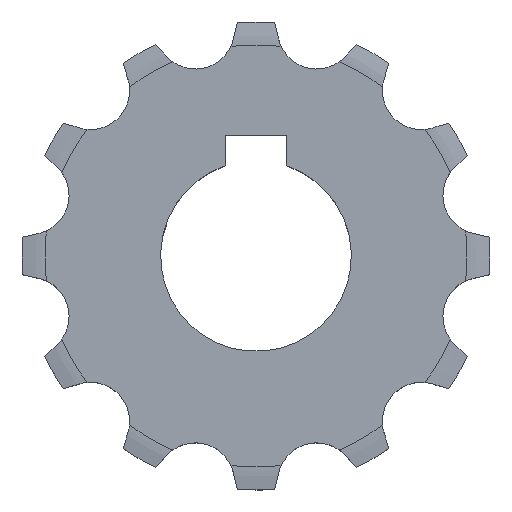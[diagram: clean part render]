
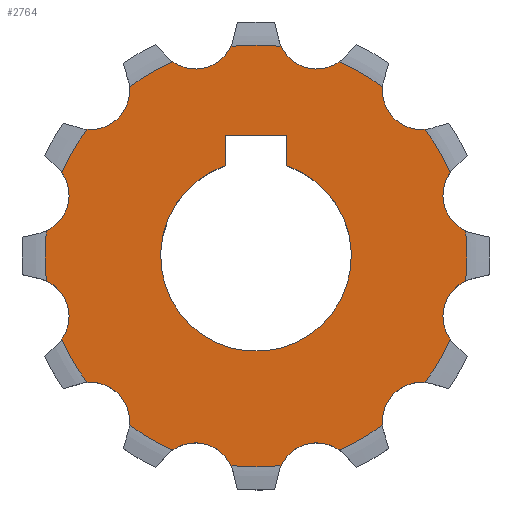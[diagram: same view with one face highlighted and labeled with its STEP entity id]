
A CAD part, top view. The second image highlights one B-rep face of the part: STEP entity #2764.
In plain terms, the highlighted planar face has unit normal (0, 0, 1).
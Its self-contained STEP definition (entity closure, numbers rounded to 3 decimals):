
#33=CARTESIAN_POINT('',(7.938,29.623,4.55));
#34=DIRECTION('',(0.,0.,1.));
#35=DIRECTION('',(-0.908,-0.42,0.));
#36=AXIS2_PLACEMENT_3D('',#33,#34,#35);
#42=CARTESIAN_POINT('',(0.,0.,4.55));
#43=DIRECTION('',(0.,0.,-1.));
#44=DIRECTION('',(0.394,0.919,0.));
#45=AXIS2_PLACEMENT_3D('',#42,#43,#44);
#50=CARTESIAN_POINT('',(21.686,21.686,4.55));
#51=DIRECTION('',(0.,0.,1.));
#52=DIRECTION('',(-0.996,0.09,0.));
#53=AXIS2_PLACEMENT_3D('',#50,#51,#52);
#58=CARTESIAN_POINT('',(0.,0.,4.55));
#59=DIRECTION('',(0.,0.,-1.));
#60=DIRECTION('',(0.801,0.599,0.));
#61=AXIS2_PLACEMENT_3D('',#58,#59,#60);
#66=CARTESIAN_POINT('',(29.623,7.938,4.55));
#67=DIRECTION('',(0.,0.,1.));
#68=DIRECTION('',(-0.817,0.576,0.));
#69=AXIS2_PLACEMENT_3D('',#66,#67,#68);
#74=CARTESIAN_POINT('',(0.,0.,4.55));
#75=DIRECTION('',(0.,0.,-1.));
#76=DIRECTION('',(0.993,0.119,0.));
#77=AXIS2_PLACEMENT_3D('',#74,#75,#76);
#82=CARTESIAN_POINT('',(29.623,-7.938,4.55));
#83=DIRECTION('',(0.,0.,1.));
#84=DIRECTION('',(-0.42,0.908,0.));
#85=AXIS2_PLACEMENT_3D('',#82,#83,#84);
#90=CARTESIAN_POINT('',(0.,0.,4.55));
#91=DIRECTION('',(0.,0.,-1.));
#92=DIRECTION('',(0.919,-0.394,0.));
#93=AXIS2_PLACEMENT_3D('',#90,#91,#92);
#98=CARTESIAN_POINT('',(21.686,-21.686,4.55));
#99=DIRECTION('',(0.,0.,1.));
#100=DIRECTION('',(0.09,0.996,0.));
#101=AXIS2_PLACEMENT_3D('',#98,#99,#100);
#106=CARTESIAN_POINT('',(0.,0.,4.55));
#107=DIRECTION('',(0.,0.,-1.));
#108=DIRECTION('',(0.599,-0.801,0.));
#109=AXIS2_PLACEMENT_3D('',#106,#107,#108);
#114=CARTESIAN_POINT('',(7.938,-29.623,4.55));
#115=DIRECTION('',(0.,0.,1.));
#116=DIRECTION('',(0.576,0.817,0.));
#117=AXIS2_PLACEMENT_3D('',#114,#115,#116);
#122=CARTESIAN_POINT('',(-7.938,-29.623,4.55));
#123=DIRECTION('',(0.,0.,1.));
#124=DIRECTION('',(0.908,0.42,0.));
#125=AXIS2_PLACEMENT_3D('',#122,#123,#124);
#130=CARTESIAN_POINT('',(0.,0.,4.55));
#131=DIRECTION('',(0.,0.,-1.));
#132=DIRECTION('',(-0.394,-0.919,0.));
#133=AXIS2_PLACEMENT_3D('',#130,#131,#132);
#138=CARTESIAN_POINT('',(-21.686,-21.686,4.55));
#139=DIRECTION('',(0.,0.,1.));
#140=DIRECTION('',(0.996,-0.09,0.));
#141=AXIS2_PLACEMENT_3D('',#138,#139,#140);
#146=CARTESIAN_POINT('',(0.,0.,4.55));
#147=DIRECTION('',(0.,0.,-1.));
#148=DIRECTION('',(-0.801,-0.599,0.));
#149=AXIS2_PLACEMENT_3D('',#146,#147,#148);
#154=CARTESIAN_POINT('',(-29.623,-7.938,4.55));
#155=DIRECTION('',(0.,0.,1.));
#156=DIRECTION('',(0.817,-0.576,0.));
#157=AXIS2_PLACEMENT_3D('',#154,#155,#156);
#162=CARTESIAN_POINT('',(0.,0.,4.55));
#163=DIRECTION('',(0.,0.,-1.));
#164=DIRECTION('',(-0.993,-0.119,0.));
#165=AXIS2_PLACEMENT_3D('',#162,#163,#164);
#170=CARTESIAN_POINT('',(-29.623,7.938,4.55));
#171=DIRECTION('',(0.,0.,1.));
#172=DIRECTION('',(0.42,-0.908,0.));
#173=AXIS2_PLACEMENT_3D('',#170,#171,#172);
#178=CARTESIAN_POINT('',(0.,0.,4.55));
#179=DIRECTION('',(0.,0.,-1.));
#180=DIRECTION('',(-0.919,0.394,0.));
#181=AXIS2_PLACEMENT_3D('',#178,#179,#180);
#186=CARTESIAN_POINT('',(-21.686,21.686,4.55));
#187=DIRECTION('',(0.,0.,1.));
#188=DIRECTION('',(-0.09,-0.996,0.));
#189=AXIS2_PLACEMENT_3D('',#186,#187,#188);
#194=CARTESIAN_POINT('',(0.,0.,4.55));
#195=DIRECTION('',(0.,0.,-1.));
#196=DIRECTION('',(-0.599,0.801,0.));
#197=AXIS2_PLACEMENT_3D('',#194,#195,#196);
#202=CARTESIAN_POINT('',(-7.938,29.623,4.55));
#203=DIRECTION('',(0.,0.,1.));
#204=DIRECTION('',(-0.576,-0.817,0.));
#205=AXIS2_PLACEMENT_3D('',#202,#203,#204);
#210=DIRECTION('',(0.,1.,0.));
#211=VECTOR('',#210,3.957);
#212=CARTESIAN_POINT('',(4.,11.843,4.55));
#213=LINE('',#212,#211);
#217=DIRECTION('',(-1.,0.,0.));
#218=VECTOR('',#217,8.);
#219=CARTESIAN_POINT('',(4.,15.8,4.55));
#220=LINE('',#219,#218);
#224=DIRECTION('',(0.,-1.,0.));
#225=VECTOR('',#224,3.957);
#226=CARTESIAN_POINT('',(-4.,15.8,4.55));
#227=LINE('',#226,#225);
#255=CARTESIAN_POINT('',(0.,0.,4.55));
#256=DIRECTION('',(0.,0.,1.));
#257=DIRECTION('',(0.119,0.993,0.));
#258=AXIS2_PLACEMENT_3D('',#255,#256,#257);
#279=CARTESIAN_POINT('',(0.,0.,4.55));
#280=DIRECTION('',(0.,0.,1.));
#281=DIRECTION('',(-0.119,-0.993,0.));
#282=AXIS2_PLACEMENT_3D('',#279,#280,#281);
#1284=CARTESIAN_POINT('',(0.,0.,4.55));
#1285=DIRECTION('',(0.,0.,-1.));
#1286=DIRECTION('',(0.32,0.947,0.));
#1287=AXIS2_PLACEMENT_3D('',#1284,#1285,#1286);
#1406=CARTESIAN_POINT('',(-3.281,27.469,4.55));
#1686=CARTESIAN_POINT('',(-3.281,-27.469,4.55));
#2310=CARTESIAN_POINT('',(3.281,27.469,4.55));
#2409=CARTESIAN_POINT('',(10.893,25.429,4.55));
#2410=CARTESIAN_POINT('',(16.576,22.148,4.55));
#2411=VERTEX_POINT('',#2409);
#2412=VERTEX_POINT('',#2410);
#2413=CARTESIAN_POINT('',(22.148,16.576,4.55));
#2414=CARTESIAN_POINT('',(25.429,10.893,4.55));
#2415=VERTEX_POINT('',#2413);
#2416=VERTEX_POINT('',#2414);
#2417=CARTESIAN_POINT('',(27.469,3.281,4.55));
#2418=CARTESIAN_POINT('',(27.469,-3.281,4.55));
#2419=VERTEX_POINT('',#2417);
#2420=VERTEX_POINT('',#2418);
#2421=CARTESIAN_POINT('',(-10.893,-25.429,4.55));
#2422=CARTESIAN_POINT('',(-16.576,-22.148,4.55));
#2423=VERTEX_POINT('',#2421);
#2424=VERTEX_POINT('',#2422);
#2425=CARTESIAN_POINT('',(-22.148,-16.576,4.55));
#2426=CARTESIAN_POINT('',(-25.429,-10.893,4.55));
#2427=VERTEX_POINT('',#2425);
#2428=VERTEX_POINT('',#2426);
#2429=CARTESIAN_POINT('',(-27.469,-3.281,4.55));
#2430=CARTESIAN_POINT('',(-27.469,3.281,4.55));
#2431=VERTEX_POINT('',#2429);
#2432=VERTEX_POINT('',#2430);
#2458=VERTEX_POINT('',#2310);
#2474=VERTEX_POINT('',#1686);
#2481=CARTESIAN_POINT('',(25.429,-10.893,4.55));
#2482=VERTEX_POINT('',#2481);
#2485=CARTESIAN_POINT('',(22.148,-16.576,4.55));
#2486=CARTESIAN_POINT('',(16.576,-22.148,4.55));
#2487=VERTEX_POINT('',#2485);
#2488=VERTEX_POINT('',#2486);
#2493=CARTESIAN_POINT('',(10.893,-25.429,4.55));
#2494=CARTESIAN_POINT('',(3.281,-27.469,4.55));
#2495=VERTEX_POINT('',#2493);
#2496=VERTEX_POINT('',#2494);
#2525=CARTESIAN_POINT('',(-25.429,10.893,4.55));
#2526=CARTESIAN_POINT('',(-22.148,16.576,4.55));
#2527=VERTEX_POINT('',#2525);
#2528=VERTEX_POINT('',#2526);
#2529=CARTESIAN_POINT('',(-16.576,22.148,4.55));
#2530=CARTESIAN_POINT('',(-10.893,25.429,4.55));
#2531=VERTEX_POINT('',#2529);
#2532=VERTEX_POINT('',#2530);
#2651=CARTESIAN_POINT('',(4.,11.843,4.55));
#2652=VERTEX_POINT('',#2651);
#2653=CARTESIAN_POINT('',(-4.,11.843,4.55));
#2654=VERTEX_POINT('',#2653);
#2655=CARTESIAN_POINT('',(4.,15.8,4.55));
#2656=VERTEX_POINT('',#2655);
#2657=CARTESIAN_POINT('',(-4.,15.8,4.55));
#2658=VERTEX_POINT('',#2657);
#2694=VERTEX_POINT('',#1406);
#2699=CARTESIAN_POINT('',(0.,0.,4.55));
#2700=DIRECTION('',(0.,0.,1.));
#2701=DIRECTION('',(1.,0.,0.));
#2702=AXIS2_PLACEMENT_3D('',#2699,#2700,#2701);
#2703=PLANE('',#2702);
#2705=ORIENTED_EDGE('',*,*,#2704,.F.);
#2707=ORIENTED_EDGE('',*,*,#2706,.T.);
#2709=ORIENTED_EDGE('',*,*,#2708,.T.);
#2711=ORIENTED_EDGE('',*,*,#2710,.T.);
#2713=ORIENTED_EDGE('',*,*,#2712,.T.);
#2715=ORIENTED_EDGE('',*,*,#2714,.T.);
#2717=ORIENTED_EDGE('',*,*,#2716,.T.);
#2719=ORIENTED_EDGE('',*,*,#2718,.T.);
#2721=ORIENTED_EDGE('',*,*,#2720,.T.);
#2723=ORIENTED_EDGE('',*,*,#2722,.T.);
#2725=ORIENTED_EDGE('',*,*,#2724,.T.);
#2727=ORIENTED_EDGE('',*,*,#2726,.T.);
#2729=ORIENTED_EDGE('',*,*,#2728,.F.);
#2731=ORIENTED_EDGE('',*,*,#2730,.T.);
#2733=ORIENTED_EDGE('',*,*,#2732,.T.);
#2735=ORIENTED_EDGE('',*,*,#2734,.T.);
#2737=ORIENTED_EDGE('',*,*,#2736,.T.);
#2739=ORIENTED_EDGE('',*,*,#2738,.T.);
#2741=ORIENTED_EDGE('',*,*,#2740,.T.);
#2743=ORIENTED_EDGE('',*,*,#2742,.T.);
#2745=ORIENTED_EDGE('',*,*,#2744,.T.);
#2747=ORIENTED_EDGE('',*,*,#2746,.T.);
#2749=ORIENTED_EDGE('',*,*,#2748,.T.);
#2751=ORIENTED_EDGE('',*,*,#2750,.T.);
#2752=EDGE_LOOP('',(#2705,#2707,#2709,#2711,#2713,#2715,#2717,#2719,#2721,#2723,
#2725,#2727,#2729,#2731,#2733,#2735,#2737,#2739,#2741,#2743,#2745,#2747,#2749,
#2751));
#2753=FACE_OUTER_BOUND('',#2752,.F.);
#2755=ORIENTED_EDGE('',*,*,#2754,.T.);
#2757=ORIENTED_EDGE('',*,*,#2756,.T.);
#2759=ORIENTED_EDGE('',*,*,#2758,.T.);
#2761=ORIENTED_EDGE('',*,*,#2760,.F.);
#2762=EDGE_LOOP('',(#2755,#2757,#2759,#2761));
#2763=FACE_BOUND('',#2762,.F.);
#2764=ADVANCED_FACE('',(#2753,#2763),#2703,.T.);
#37=CIRCLE('',#36,5.131);
#46=CIRCLE('',#45,27.664);
#54=CIRCLE('',#53,5.131);
#62=CIRCLE('',#61,27.664);
#70=CIRCLE('',#69,5.131);
#78=CIRCLE('',#77,27.664);
#86=CIRCLE('',#85,5.131);
#94=CIRCLE('',#93,27.664);
#102=CIRCLE('',#101,5.131);
#110=CIRCLE('',#109,27.664);
#118=CIRCLE('',#117,5.131);
#126=CIRCLE('',#125,5.131);
#134=CIRCLE('',#133,27.664);
#142=CIRCLE('',#141,5.131);
#150=CIRCLE('',#149,27.664);
#158=CIRCLE('',#157,5.131);
#166=CIRCLE('',#165,27.664);
#174=CIRCLE('',#173,5.131);
#182=CIRCLE('',#181,27.664);
#190=CIRCLE('',#189,5.131);
#198=CIRCLE('',#197,27.664);
#206=CIRCLE('',#205,5.131);
#259=CIRCLE('',#258,27.664);
#283=CIRCLE('',#282,27.664);
#1288=CIRCLE('',#1287,12.5);
#2704=EDGE_CURVE('',#2458,#2694,#259,.T.);
#2706=EDGE_CURVE('',#2458,#2411,#37,.T.);
#2708=EDGE_CURVE('',#2411,#2412,#46,.T.);
#2710=EDGE_CURVE('',#2412,#2415,#54,.T.);
#2712=EDGE_CURVE('',#2415,#2416,#62,.T.);
#2714=EDGE_CURVE('',#2416,#2419,#70,.T.);
#2716=EDGE_CURVE('',#2419,#2420,#78,.T.);
#2718=EDGE_CURVE('',#2420,#2482,#86,.T.);
#2720=EDGE_CURVE('',#2482,#2487,#94,.T.);
#2722=EDGE_CURVE('',#2487,#2488,#102,.T.);
#2724=EDGE_CURVE('',#2488,#2495,#110,.T.);
#2726=EDGE_CURVE('',#2495,#2496,#118,.T.);
#2728=EDGE_CURVE('',#2474,#2496,#283,.T.);
#2730=EDGE_CURVE('',#2474,#2423,#126,.T.);
#2732=EDGE_CURVE('',#2423,#2424,#134,.T.);
#2734=EDGE_CURVE('',#2424,#2427,#142,.T.);
#2736=EDGE_CURVE('',#2427,#2428,#150,.T.);
#2738=EDGE_CURVE('',#2428,#2431,#158,.T.);
#2740=EDGE_CURVE('',#2431,#2432,#166,.T.);
#2742=EDGE_CURVE('',#2432,#2527,#174,.T.);
#2744=EDGE_CURVE('',#2527,#2528,#182,.T.);
#2746=EDGE_CURVE('',#2528,#2531,#190,.T.);
#2748=EDGE_CURVE('',#2531,#2532,#198,.T.);
#2750=EDGE_CURVE('',#2532,#2694,#206,.T.);
#2754=EDGE_CURVE('',#2652,#2656,#213,.T.);
#2756=EDGE_CURVE('',#2656,#2658,#220,.T.);
#2758=EDGE_CURVE('',#2658,#2654,#227,.T.);
#2760=EDGE_CURVE('',#2652,#2654,#1288,.T.);
